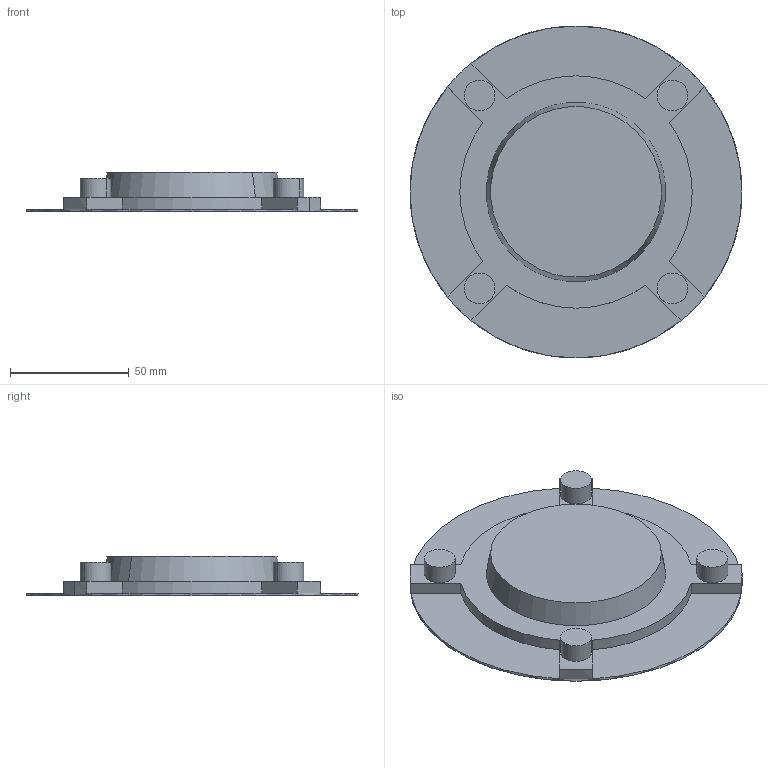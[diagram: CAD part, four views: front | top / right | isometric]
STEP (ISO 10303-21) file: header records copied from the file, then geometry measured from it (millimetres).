
FILE_DESCRIPTION(/* description */ (''),/* implementation_level */ '2;1');
FILE_NAME(/* name */ '5_COPRIMOZZO NMRV-P075',/* time_stamp */ '2025-10-09T15:13:57+02:00',/* author */ (''),/* organization */ (''),/* preprocessor_version */ 'ST-DEVELOPER v19.2',/* originating_system */ 'Rhino 8.23',/* authorisation */ '');
FILE_SCHEMA (('CONFIG_CONTROL_DESIGN'));
Length unit declared in the file: millimetre
Products named in the file (2): Document; Corona 75-p
Bounding box: 140 x 140 x 16.5 mm (x, y, z)
Volume: 108332.9 mm3; surface area: 36966.9 mm2
Topology: 1 solids, 1 shells, 35 faces, 84 edges, 56 vertices
Faces by surface type: plane 19, cylinder 14, bspline 2
Entity records: 1368 total; most frequent: CARTESIAN_POINT 321, ORIENTED_EDGE 168, DIRECTION 121, EDGE_CURVE 84, AXIS2_PLACEMENT_3D 77, VERTEX_POINT 56, B_SPLINE_CURVE_WITH_KNOTS 44, EDGE_LOOP 40
